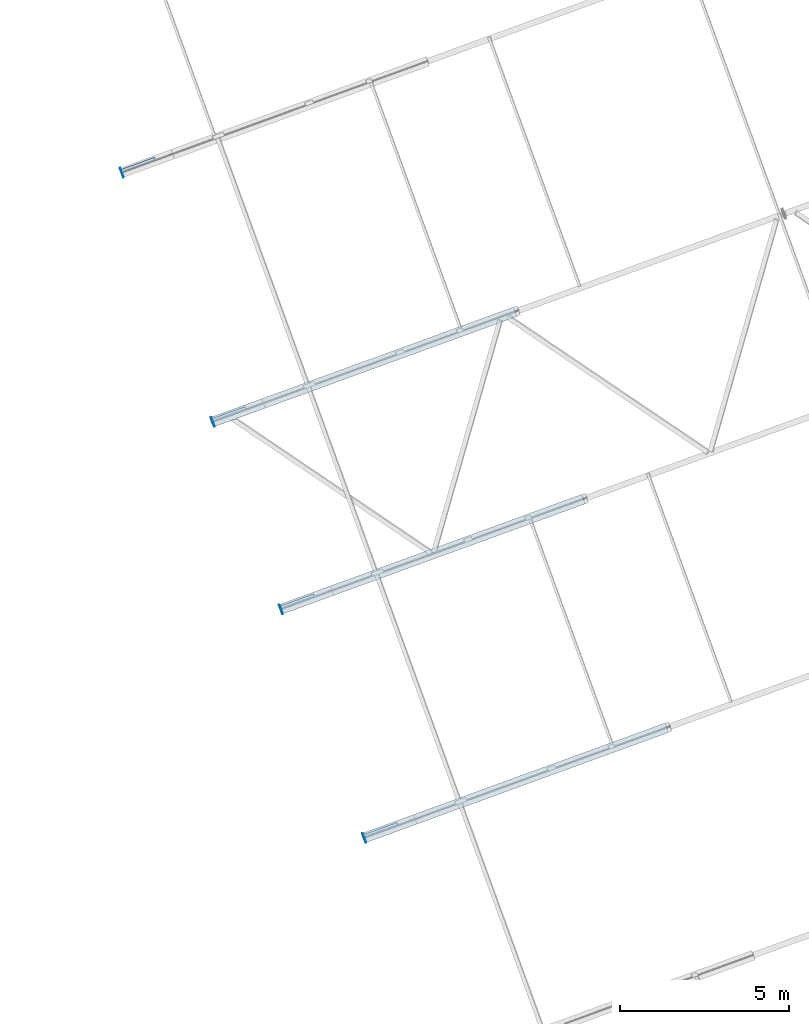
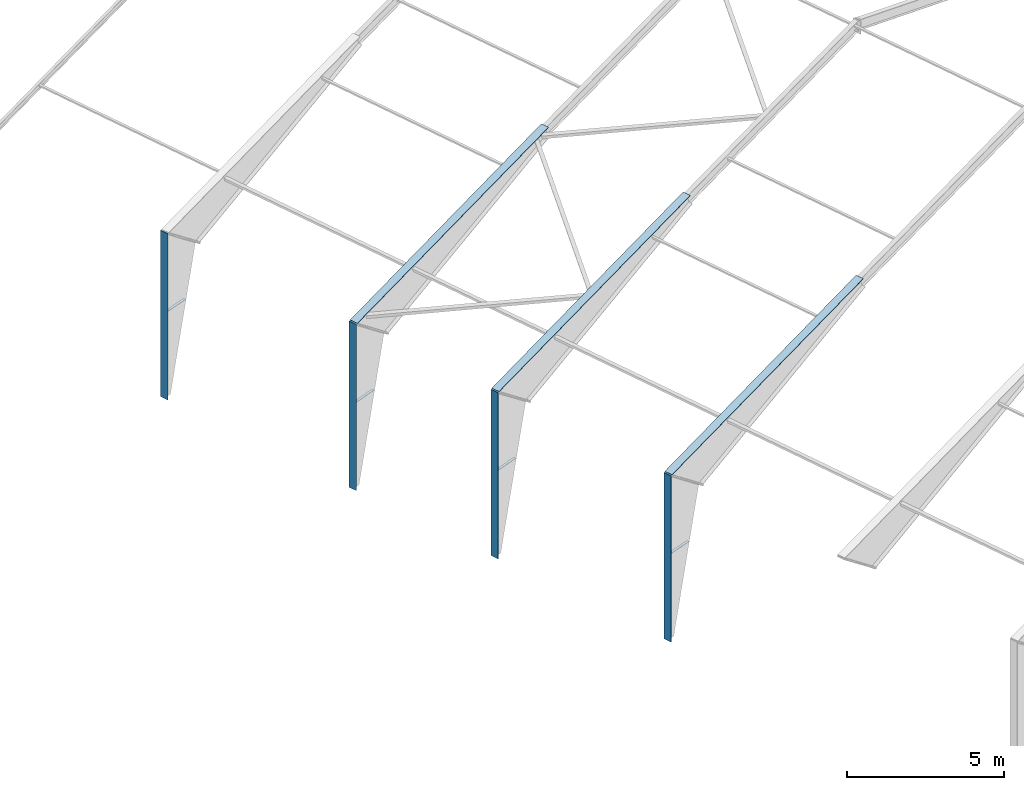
# One storey, part 12 of 17: 11 plates, 11 elements without a shape of their own.
"""IFC4 building model written with IfcOpenShell, lengths in millimetres."""

from ifc_helpers import new_model, si_unit, direction, frame, origin_with_axes, place, context, subcontext, project, spatial, polygons, material, element, aggregate, save


model = new_model("IFC4")

# Units and contexts
model_context = context("Model", 3, precision=0.2, world=frame((203566.813, 116264.779, 0.0), z_axis=(0.0, 0.0, 1.0), x_axis=(1.0, 0.0, 0.0)), true_north=direction((-0.9396138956, -0.3422363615)))
body_context = subcontext(model_context, "Body", "Model", "MODEL_VIEW")
ifc_project = project(units=[si_unit("LENGTHUNIT", "METRE", prefix="MILLI"), si_unit("AREAUNIT", "SQUARE_METRE"), si_unit("VOLUMEUNIT", "CUBIC_METRE"), si_unit("MASSUNIT", "GRAM", prefix="KILO"), si_unit("TIMEUNIT", "SECOND"), si_unit("PLANEANGLEUNIT", "RADIAN"), si_unit("SOLIDANGLEUNIT", "STERADIAN"), si_unit("THERMODYNAMICTEMPERATUREUNIT", "DEGREE_CELSIUS"), si_unit("LUMINOUSINTENSITYUNIT", "LUMEN")], contexts=[model_context])

# Site, building, storey
site_placement = place(None, origin_with_axes())
site = spatial("IfcSite", under=ifc_project, at=site_placement, Name="Nobelprojektet", CompositionType="ELEMENT")
building_placement = place(site_placement, origin_with_axes())
building = spatial("IfcBuilding", under=site, at=building_placement, Name="Hall B", CompositionType="ELEMENT")
storey_placement = place(building_placement, frame((0.0, 0.0, 136000.0), z_axis=(0.0, 0.0, 1.0), x_axis=(1.0, 0.0, 0.0)))
storey = spatial("IfcBuildingStorey", under=building, at=storey_placement, Name="Plan_2", CompositionType="ELEMENT", Elevation=136000.0)

# Assembly, plate
assembly_1_placement = place(storey_placement, frame((138155.45567, 146733.679, -2800.0114), z_axis=(0.9396136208, 0.3422371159, 0.0), x_axis=(0.0, 0.0, 1.0)))
assembly_1 = element("IfcElementAssembly", 1, at=assembly_1_placement, inside=storey, Name="BEF. STOMME", PredefinedType="NOTDEFINED")
ifc_material = material(Name="S355J2", Category="STEEL")
plate_1_placement = place(assembly_1_placement, frame((6473.48022, 0.0, 0.0), z_axis=(-1.0, 0.0, 0.0), x_axis=(0.0, 0.0, 1.0)))
plate_1 = element("IfcPlate", 2, at=plate_1_placement, material=ifc_material, Name="BEF. STOMME", PredefinedType="NOTDEFINED", context=body_context, shape_type="Tessellation", body=[
    polygons([(-7.5, -150.0, 6473.48022), (-7.5, 150.0, 6473.48022), (-7.5, 150.0, 0.0), (-7.5, -150.0, 0.0), (7.5, 150.0, 6473.48022), (7.5, 150.0, 0.0), (7.5, -150.0, 6473.48022), (7.5, -150.0, 0.0)], [[[1, 2, 3, 4]], [[2, 5, 6, 3]], [[5, 7, 8, 6]], [[7, 1, 4, 8]], [[6, 8, 4, 3]], [[7, 5, 2, 1]]], closed=True),
])
aggregate(assembly_1, [plate_1])

assembly_2_placement = place(storey_placement, frame((138193.35646, 146747.48367, 3682.47747), z_axis=(0.2431885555, 0.0885769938, -0.9659262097), x_axis=(0.9075966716, 0.3305755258, 0.2588206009)))
assembly_2 = element("IfcElementAssembly", 3, at=assembly_2_placement, inside=storey, Name="BEF. STOMME", PredefinedType="NOTDEFINED")
plate_2_placement = place(assembly_2_placement, frame((9833.15093, 0.0, 0.0), z_axis=(-1.0, 0.0, 0.0), x_axis=(0.0, 0.0, 1.0)))
plate_2 = element("IfcPlate", 4, at=plate_2_placement, material=ifc_material, Name="BEF. STOMME", PredefinedType="NOTDEFINED", context=body_context, shape_type="Tessellation", body=[
    polygons([(-10.0, -149.99999, 9833.15093), (-10.0, 150.00001, 9833.15093), (-10.0, 150.0, 0.0), (-10.0, -150.0, 0.0), (10.0, 150.00001, 9833.15093), (10.0, 150.0, 0.0), (10.0, -149.99999, 9833.15093), (10.0, -150.0, 0.0)], [[[1, 2, 3, 4]], [[2, 5, 6, 3]], [[5, 7, 8, 6]], [[7, 1, 4, 8]], [[6, 8, 4, 3]], [[7, 5, 2, 1]]], closed=True),
])
aggregate(assembly_2, [plate_2])

assembly_3_placement = place(storey_placement, frame((138145.39034, 146783.22625, 472.48799), z_axis=(0.0, 0.0, -1.0), x_axis=(0.9396136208, 0.3422371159, 0.0)))
assembly_3 = element("IfcElementAssembly", 5, at=assembly_3_placement, inside=storey, Name="BEF. STOMME", PredefinedType="NOTDEFINED")
plate_3_placement = place(assembly_3_placement, frame((1065.0, 0.0, 0.0), z_axis=(-1.0, 0.0, 0.0), x_axis=(0.0, 0.0, 1.0)))
plate_3 = element("IfcPlate", 6, at=plate_3_placement, material=ifc_material, Name="BEF. STOMME", PredefinedType="NOTDEFINED", context=body_context, shape_type="Tessellation", body=[
    polygons([(-7.5, -50.0, 1065.0), (-7.5, 50.0, 1065.0), (-7.5, 50.0, 0.0), (-7.5, -50.0, 0.0), (7.5, 50.0, 1065.0), (7.5, 50.0, 0.0), (7.5, -50.0, 1065.0), (7.5, -50.0, 0.0)], [[[1, 2, 3, 4]], [[2, 5, 6, 3]], [[5, 7, 8, 6]], [[7, 1, 4, 8]], [[6, 8, 4, 3]], [[7, 5, 2, 1]]], closed=True),
])
aggregate(assembly_3, [plate_3])

assembly_4_placement = place(storey_placement, frame((135691.34843, 153498.89707, -2800.0114), z_axis=(0.9396136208, 0.3422371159, 0.0), x_axis=(0.0, 0.0, 1.0)))
assembly_4 = element("IfcElementAssembly", 7, at=assembly_4_placement, inside=storey, Name="BEF. STOMME", PredefinedType="NOTDEFINED")
plate_4_placement = place(assembly_4_placement, frame((6473.48022, 0.0, 0.0), z_axis=(-1.0, 0.0, 0.0), x_axis=(0.0, 0.0, 1.0)))
plate_4 = element("IfcPlate", 8, at=plate_4_placement, material=ifc_material, Name="BEF. STOMME", PredefinedType="NOTDEFINED", context=body_context, shape_type="Tessellation", body=[
    polygons([(-7.5, -150.0, 6473.48022), (-7.5, 150.0, 6473.48022), (-7.5, 150.0, 0.0), (-7.5, -150.0, 0.0), (7.5, 150.0, 6473.48022), (7.5, 150.0, 0.0), (7.5, -150.0, 6473.48022), (7.5, -150.0, 0.0)], [[[1, 2, 3, 4]], [[2, 5, 6, 3]], [[5, 7, 8, 6]], [[7, 1, 4, 8]], [[6, 8, 4, 3]], [[7, 5, 2, 1]]], closed=True),
])
aggregate(assembly_4, [plate_4])

assembly_5_placement = place(storey_placement, frame((135729.24922, 153512.70174, 3682.47747), z_axis=(0.2431885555, 0.0885769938, -0.9659262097), x_axis=(0.9075966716, 0.3305755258, 0.2588206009)))
assembly_5 = element("IfcElementAssembly", 9, at=assembly_5_placement, inside=storey, Name="BEF. STOMME", PredefinedType="NOTDEFINED")
plate_5_placement = place(assembly_5_placement, frame((9833.15093, 0.0, 0.0), z_axis=(-1.0, 0.0, 0.0), x_axis=(0.0, 0.0, 1.0)))
plate_5 = element("IfcPlate", 10, at=plate_5_placement, material=ifc_material, Name="BEF. STOMME", PredefinedType="NOTDEFINED", context=body_context, shape_type="Tessellation", body=[
    polygons([(-10.0, -149.99999, 9833.15093), (-10.0, 150.00001, 9833.15093), (-10.0, 150.0, 0.0), (-10.0, -150.0, 0.0), (10.0, 150.00001, 9833.15093), (10.0, 150.0, 0.0), (10.0, -149.99999, 9833.15093), (10.0, -150.0, 0.0)], [[[1, 2, 3, 4]], [[2, 5, 6, 3]], [[5, 7, 8, 6]], [[7, 1, 4, 8]], [[6, 8, 4, 3]], [[7, 5, 2, 1]]], closed=True),
])
aggregate(assembly_5, [plate_5])

assembly_6_placement = place(storey_placement, frame((135681.28311, 153548.44432, 472.48799), z_axis=(0.0, 0.0, -1.0), x_axis=(0.9396136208, 0.3422371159, 0.0)))
assembly_6 = element("IfcElementAssembly", 11, at=assembly_6_placement, inside=storey, Name="BEF. STOMME", PredefinedType="NOTDEFINED")
plate_6_placement = place(assembly_6_placement, frame((1065.0, 0.0, 0.0), z_axis=(-1.0, 0.0, 0.0), x_axis=(0.0, 0.0, 1.0)))
plate_6 = element("IfcPlate", 12, at=plate_6_placement, material=ifc_material, Name="BEF. STOMME", PredefinedType="NOTDEFINED", context=body_context, shape_type="Tessellation", body=[
    polygons([(-7.5, -50.0, 1065.0), (-7.5, 50.0, 1065.0), (-7.5, 50.0, 0.0), (-7.5, -50.0, 0.0), (7.5, 50.0, 1065.0), (7.5, 50.0, 0.0), (7.5, -50.0, 1065.0), (7.5, -50.0, 0.0)], [[[1, 2, 3, 4]], [[2, 5, 6, 3]], [[5, 7, 8, 6]], [[7, 1, 4, 8]], [[6, 8, 4, 3]], [[7, 5, 2, 1]]], closed=True),
])
aggregate(assembly_6, [plate_6])

assembly_7_placement = place(storey_placement, frame((133672.14945, 159042.61743, -2800.0114), z_axis=(0.9396136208, 0.3422371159, 0.0), x_axis=(0.0, 0.0, 1.0)))
assembly_7 = element("IfcElementAssembly", 13, at=assembly_7_placement, inside=storey, Name="BEF. STOMME", PredefinedType="NOTDEFINED")
plate_7_placement = place(assembly_7_placement, frame((6473.48022, 0.0, 0.0), z_axis=(-1.0, 0.0, 0.0), x_axis=(0.0, 0.0, 1.0)))
plate_7 = element("IfcPlate", 14, at=plate_7_placement, material=ifc_material, Name="BEF. STOMME", PredefinedType="NOTDEFINED", context=body_context, shape_type="Tessellation", body=[
    polygons([(-7.5, -150.0, 6473.48022), (-7.5, 150.0, 6473.48022), (-7.5, 150.0, 0.0), (-7.5, -150.0, 0.0), (7.5, 150.0, 6473.48022), (7.5, 150.0, 0.0), (7.5, -150.0, 6473.48022), (7.5, -150.0, 0.0)], [[[1, 2, 3, 4]], [[2, 5, 6, 3]], [[5, 7, 8, 6]], [[7, 1, 4, 8]], [[6, 8, 4, 3]], [[7, 5, 2, 1]]], closed=True),
])
aggregate(assembly_7, [plate_7])

assembly_8_placement = place(storey_placement, frame((133710.05023, 159056.4221, 3682.47747), z_axis=(0.2431885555, 0.0885769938, -0.9659262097), x_axis=(0.9075966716, 0.3305755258, 0.2588206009)))
assembly_8 = element("IfcElementAssembly", 15, at=assembly_8_placement, inside=storey, Name="BEF. STOMME", PredefinedType="NOTDEFINED")
plate_8_placement = place(assembly_8_placement, frame((9833.15093, 0.0, 0.0), z_axis=(-1.0, 0.0, 0.0), x_axis=(0.0, 0.0, 1.0)))
plate_8 = element("IfcPlate", 16, at=plate_8_placement, material=ifc_material, Name="BEF. STOMME", PredefinedType="NOTDEFINED", context=body_context, shape_type="Tessellation", body=[
    polygons([(-10.0, -149.99999, 9833.15093), (-10.0, 150.00001, 9833.15093), (-10.0, 150.0, 0.0), (-10.0, -150.0, 0.0), (10.0, 150.00001, 9833.15093), (10.0, 150.0, 0.0), (10.0, -149.99999, 9833.15093), (10.0, -150.0, 0.0)], [[[1, 2, 3, 4]], [[2, 5, 6, 3]], [[5, 7, 8, 6]], [[7, 1, 4, 8]], [[6, 8, 4, 3]], [[7, 5, 2, 1]]], closed=True),
])
aggregate(assembly_8, [plate_8])

assembly_9_placement = place(storey_placement, frame((133662.08412, 159092.16468, 472.48799), z_axis=(0.0, 0.0, -1.0), x_axis=(0.9396136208, 0.3422371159, 0.0)))
assembly_9 = element("IfcElementAssembly", 17, at=assembly_9_placement, inside=storey, Name="BEF. STOMME", PredefinedType="NOTDEFINED")
plate_9_placement = place(assembly_9_placement, frame((1065.0, 0.0, 0.0), z_axis=(-1.0, 0.0, 0.0), x_axis=(0.0, 0.0, 1.0)))
plate_9 = element("IfcPlate", 18, at=plate_9_placement, material=ifc_material, Name="BEF. STOMME", PredefinedType="NOTDEFINED", context=body_context, shape_type="Tessellation", body=[
    polygons([(-7.5, -50.0, 1065.0), (-7.5, 50.0, 1065.0), (-7.5, 50.0, 0.0), (-7.5, -50.0, 0.0), (7.5, 50.0, 1065.0), (7.5, 50.0, 0.0), (7.5, -50.0, 1065.0), (7.5, -50.0, 0.0)], [[[1, 2, 3, 4]], [[2, 5, 6, 3]], [[5, 7, 8, 6]], [[7, 1, 4, 8]], [[6, 8, 4, 3]], [[7, 5, 2, 1]]], closed=True),
])
aggregate(assembly_9, [plate_9])

assembly_10_placement = place(storey_placement, frame((130985.58809, 166418.58436, -2800.0114), z_axis=(0.9396136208, 0.3422371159, 0.0), x_axis=(0.0, 0.0, 1.0)))
assembly_10 = element("IfcElementAssembly", 19, at=assembly_10_placement, inside=storey, Name="BEF. STOMME", PredefinedType="NOTDEFINED")
plate_10_placement = place(assembly_10_placement, frame((6473.48022, 0.0, 0.0), z_axis=(-1.0, 0.0, 0.0), x_axis=(0.0, 0.0, 1.0)))
plate_10 = element("IfcPlate", 20, at=plate_10_placement, material=ifc_material, Name="BEF. STOMME", PredefinedType="NOTDEFINED", context=body_context, shape_type="Tessellation", body=[
    polygons([(-7.5, -150.0, 6473.48022), (-7.5, 150.0, 6473.48022), (-7.5, 150.0, 0.0), (-7.5, -150.0, 0.0), (7.5, 150.0, 6473.48022), (7.5, 150.0, 0.0), (7.5, -150.0, 6473.48022), (7.5, -150.0, 0.0)], [[[1, 2, 3, 4]], [[2, 5, 6, 3]], [[5, 7, 8, 6]], [[7, 1, 4, 8]], [[6, 8, 4, 3]], [[7, 5, 2, 1]]], closed=True),
])
aggregate(assembly_10, [plate_10])

assembly_11_placement = place(storey_placement, frame((130975.52276, 166468.13161, 472.48799), z_axis=(0.0, 0.0, -1.0), x_axis=(0.9396136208, 0.3422371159, 0.0)))
assembly_11 = element("IfcElementAssembly", 21, at=assembly_11_placement, inside=storey, Name="BEF. STOMME", PredefinedType="NOTDEFINED")
plate_11_placement = place(assembly_11_placement, frame((1065.0, 0.0, 0.0), z_axis=(-1.0, 0.0, 0.0), x_axis=(0.0, 0.0, 1.0)))
plate_11 = element("IfcPlate", 22, at=plate_11_placement, material=ifc_material, Name="BEF. STOMME", PredefinedType="NOTDEFINED", context=body_context, shape_type="Tessellation", body=[
    polygons([(-7.5, -50.0, 1065.0), (-7.5, 50.0, 1065.0), (-7.5, 50.0, 0.0), (-7.5, -50.0, 0.0), (7.5, 50.0, 1065.0), (7.5, 50.0, 0.0), (7.5, -50.0, 1065.0), (7.5, -50.0, 0.0)], [[[1, 2, 3, 4]], [[2, 5, 6, 3]], [[5, 7, 8, 6]], [[7, 1, 4, 8]], [[6, 8, 4, 3]], [[7, 5, 2, 1]]], closed=True),
])
aggregate(assembly_11, [plate_11])

save(model, "model.ifc")
